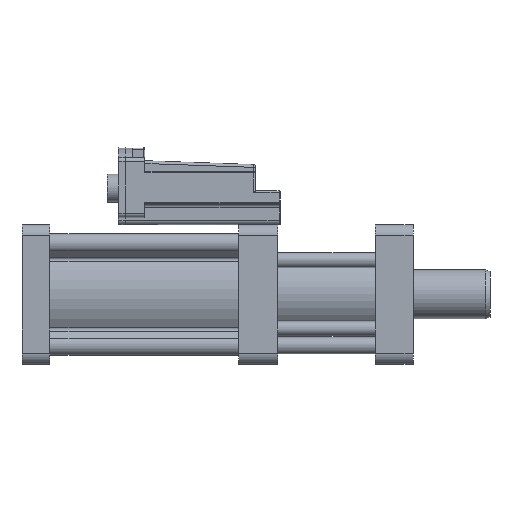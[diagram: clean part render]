
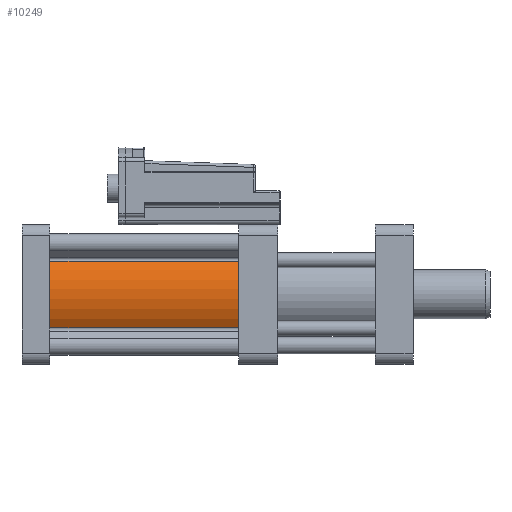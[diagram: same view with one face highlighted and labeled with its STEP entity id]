
A CAD part, left-side view. The second image highlights one B-rep face of the part: STEP entity #10249.
In plain terms, the highlighted cylindrical face has radius 43 mm (diameter 86 mm), a partial arc.
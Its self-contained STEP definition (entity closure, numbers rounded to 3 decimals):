
#934 = ORIENTED_EDGE ( 'NONE', *, *, #14391, .F. ) ;
#1091 = CARTESIAN_POINT ( 'NONE',  ( -35.872, 54., -73.71 ) ) ;
#1754 = DIRECTION ( 'NONE',  ( 0., 0., -1. ) ) ;
#2319 = VECTOR ( 'NONE', #11091, 1000. ) ;
#2588 = VERTEX_POINT ( 'NONE', #11093 ) ;
#2601 = CIRCLE ( 'NONE', #11171, 43. ) ;
#4076 = CARTESIAN_POINT ( 'NONE',  ( 0., -81., -50. ) ) ;
#5329 = DIRECTION ( 'NONE',  ( 0., 0., 1. ) ) ;
#6252 = VERTEX_POINT ( 'NONE', #13156 ) ;
#6462 = EDGE_CURVE ( 'NONE', #10106, #15139, #11891, .T. ) ;
#6516 = DIRECTION ( 'NONE',  ( 0., 1., 0. ) ) ;
#7017 = CIRCLE ( 'NONE', #11713, 43. ) ;
#7095 = AXIS2_PLACEMENT_3D ( 'NONE', #11739, #10476, #1754 ) ;
#9286 = ORIENTED_EDGE ( 'NONE', *, *, #13928, .F. ) ;
#9811 = CARTESIAN_POINT ( 'NONE',  ( -35.872, 177.037, -73.71 ) ) ;
#10106 = VERTEX_POINT ( 'NONE', #1091 ) ;
#10249 = ADVANCED_FACE ( 'NONE', ( #13440 ), #15970, .T. ) ;
#10333 = VECTOR ( 'NONE', #13455, 1000. ) ;
#10449 = ORIENTED_EDGE ( 'NONE', *, *, #12466, .T. ) ;
#10476 = DIRECTION ( 'NONE',  ( 0., -1., 0. ) ) ;
#10685 = CARTESIAN_POINT ( 'NONE',  ( -35.872, -81., -73.71 ) ) ;
#11091 = DIRECTION ( 'NONE',  ( 0., -1., 0. ) ) ;
#11093 = CARTESIAN_POINT ( 'NONE',  ( -35.872, 54., -26.29 ) ) ;
#11171 = AXIS2_PLACEMENT_3D ( 'NONE', #4076, #12779, #5329 ) ;
#11713 = AXIS2_PLACEMENT_3D ( 'NONE', #13988, #6516, #15234 ) ;
#11739 = CARTESIAN_POINT ( 'NONE',  ( 0., 177.037, -50. ) ) ;
#11891 = LINE ( 'NONE', #9811, #2319 ) ;
#12318 = CARTESIAN_POINT ( 'NONE',  ( -35.872, 177.037, -26.29 ) ) ;
#12466 = EDGE_CURVE ( 'NONE', #15139, #6252, #2601, .T. ) ;
#12779 = DIRECTION ( 'NONE',  ( 0., 1., 0. ) ) ;
#13156 = CARTESIAN_POINT ( 'NONE',  ( -35.872, -81., -26.29 ) ) ;
#13440 = FACE_OUTER_BOUND ( 'NONE', #15750, .T. ) ;
#13455 = DIRECTION ( 'NONE',  ( 0., -1., 0. ) ) ;
#13669 = LINE ( 'NONE', #12318, #10333 ) ;
#13928 = EDGE_CURVE ( 'NONE', #2588, #6252, #13669, .T. ) ;
#13988 = CARTESIAN_POINT ( 'NONE',  ( 0., 54., -50. ) ) ;
#13996 = ORIENTED_EDGE ( 'NONE', *, *, #6462, .T. ) ;
#14391 = EDGE_CURVE ( 'NONE', #10106, #2588, #7017, .T. ) ;
#15139 = VERTEX_POINT ( 'NONE', #10685 ) ;
#15234 = DIRECTION ( 'NONE',  ( 0., 0., 1. ) ) ;
#15750 = EDGE_LOOP ( 'NONE', ( #934, #13996, #10449, #9286 ) ) ;
#15970 = CYLINDRICAL_SURFACE ( 'NONE', #7095, 43. ) ;
